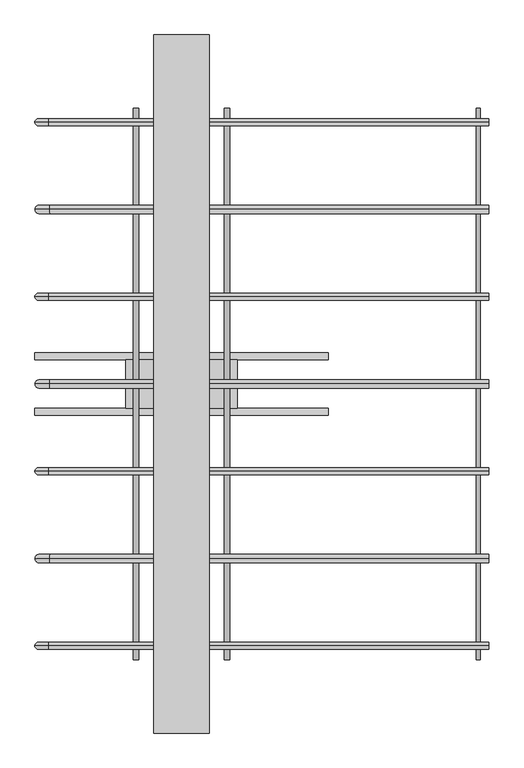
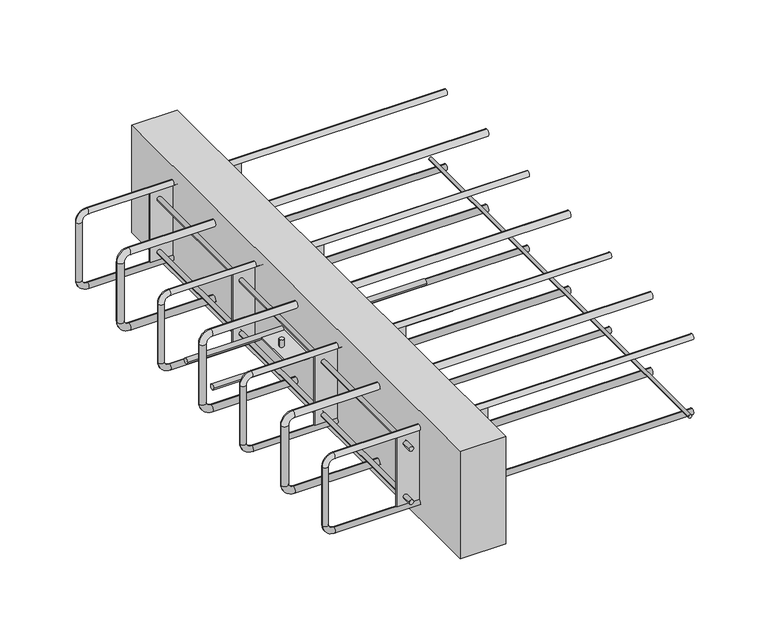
"""IFC4 building model written with IfcOpenShell, lengths in millimetres: fastener geometry, ACINOXplus_Typenreihe_Ux-Ox : UC+ S1."""

from ifc_helpers import new_model, si_unit, point, frame, frame_2d, origin, place, context, project, spatial, polyline, circle_curve, ellipse_curve, trimmed, segment, composite_curve, outline, extrude, source, transform, mapped, element, save
from ifc_brep_helpers import plane_surface, cylinder_surface, revolved_surface, advanced_brep


def fastener_22099402(model_context):
    return source(origin(), model_context, "Body", "SolidModel", [
        advanced_brep(
        [(440.0, 0.0, -23.5), (440.0, 0.0, -35.5), (-189.0, 0.0, -23.5), (-189.0, 0.0, -35.5), (-198.0, 0.0, -44.5), (-210.0, 0.0, -44.5), (-210.0, 0.0, -155.5), (-198.0, 0.0, -155.5), (-189.0, 0.0, -164.5), (-189.0, 0.0, -176.5), (440.0, 0.0, -176.5), (440.0, 0.0, -164.5)],
        [
            (0, 1, circle_curve(frame((440.0, 0.0, -29.5), z_axis=(1.0, 0.0, 0.0), x_axis=(0.0, 0.0, -1.0)), 6.0)),
            (1, 0, circle_curve(frame((440.0, 0.0, -29.5), z_axis=(1.0, 0.0, 0.0), x_axis=(0.0, 0.0, -1.0)), 6.0)),
            (0, 2),
            (2, 3, circle_curve(frame((-189.0, 0.0, -29.5), z_axis=(1.0, 0.0, 0.0), x_axis=(0.0, 0.0, -1.0)), 6.0)),
            (3, 1),
            (3, 2, circle_curve(frame((-189.0, 0.0, -29.5), z_axis=(1.0, 0.0, 0.0), x_axis=(0.0, 0.0, -1.0)), 6.0)),
            (4, 3, circle_curve(frame((-189.0, 0.0, -44.5), z_axis=(0.0, 1.0, 0.0), x_axis=(0.0, 0.0, 1.0)), 9.0)),
            (2, 5, circle_curve(frame((-189.0, 0.0, -44.5), z_axis=(0.0, -1.0, 0.0), x_axis=(0.0, 0.0, 1.0)), 21.0)),
            (5, 4, circle_curve(frame((-204.0, 0.0, -44.5), z_axis=(0.0, 0.0, 1.0), x_axis=(1.0, 0.0, 0.0)), 6.0)),
            (4, 5, circle_curve(frame((-204.0, 0.0, -44.5), z_axis=(0.0, 0.0, 1.0), x_axis=(1.0, 0.0, 0.0)), 6.0)),
            (5, 6),
            (6, 7, circle_curve(frame((-204.0, 0.0, -155.5), z_axis=(0.0, 0.0, 1.0), x_axis=(1.0, 0.0, 0.0)), 6.0)),
            (7, 4),
            (7, 6, circle_curve(frame((-204.0, 0.0, -155.5), z_axis=(0.0, 0.0, 1.0), x_axis=(1.0, 0.0, 0.0)), 6.0)),
            (8, 7, circle_curve(frame((-189.0, 0.0, -155.5), z_axis=(0.0, 1.0, 0.0), x_axis=(-1.0, 0.0, 0.0)), 9.0)),
            (6, 9, circle_curve(frame((-189.0, 0.0, -155.5), z_axis=(0.0, -1.0, 0.0), x_axis=(-1.0, 0.0, 0.0)), 21.0)),
            (9, 8, circle_curve(frame((-189.0, 0.0, -170.5), z_axis=(-1.0, 0.0, 0.0), x_axis=(0.0, 0.0, 1.0)), 6.0)),
            (8, 9, circle_curve(frame((-189.0, 0.0, -170.5), z_axis=(-1.0, 0.0, 0.0), x_axis=(0.0, 0.0, 1.0)), 6.0)),
            (10, 11, circle_curve(frame((440.0, 0.0, -170.5), z_axis=(1.0, 0.0, 0.0), x_axis=(0.0, 0.0, 1.0)), 6.0)),
            (11, 10, circle_curve(frame((440.0, 0.0, -170.5), z_axis=(1.0, 0.0, 0.0), x_axis=(0.0, 0.0, 1.0)), 6.0)),
            (9, 10),
            (11, 8),
        ],
        [
            plane_surface(frame((440.0, 0.0, -29.5), z_axis=(1.0, 0.0, 0.0), x_axis=(0.0, -1.0, 0.0))),
            cylinder_surface(frame((440.0, 0.0, -29.5), z_axis=(1.0, 0.0, 0.0), x_axis=(0.0, 0.0, -1.0)), 6.0),
            revolved_surface(trimmed(ellipse_curve(frame((-189.0, 0.0, -29.5), z_axis=(1.0, 0.0, 0.0), x_axis=(0.0, 0.0, -1.0)), 6.0, 6.0), [point((-189.0, 0.0, -23.5))], [point((-189.0, 0.0, -35.5))], True, "CARTESIAN"), (-189.0, 0.0, -44.5), (0.0, -1.0, 0.0)),
            revolved_surface(trimmed(ellipse_curve(frame((-189.0, 0.0, -29.5), z_axis=(1.0, 0.0, 0.0), x_axis=(0.0, 0.0, -1.0)), 6.0, 6.0), [point((-189.0, 0.0, -35.5))], [point((-189.0, 0.0, -23.5))], True, "CARTESIAN"), (-189.0, 0.0, -44.5), (0.0, -1.0, 0.0)),
            cylinder_surface(frame((-204.0, 0.0, -44.5), z_axis=(0.0, 0.0, 1.0), x_axis=(1.0, 0.0, 0.0)), 6.0),
            revolved_surface(trimmed(ellipse_curve(frame((-204.0, 0.0, -155.5), z_axis=(0.0, 0.0, 1.0), x_axis=(1.0, 0.0, 0.0)), 6.0, 6.0), [point((-210.0, 0.0, -155.5))], [point((-198.0, 0.0, -155.5))], True, "CARTESIAN"), (-189.0, 0.0, -155.5), (0.0, -1.0, 0.0)),
            revolved_surface(trimmed(ellipse_curve(frame((-204.0, 0.0, -155.5), z_axis=(0.0, 0.0, 1.0), x_axis=(1.0, 0.0, 0.0)), 6.0, 6.0), [point((-198.0, 0.0, -155.5))], [point((-210.0, 0.0, -155.5))], True, "CARTESIAN"), (-189.0, 0.0, -155.5), (0.0, -1.0, 0.0)),
            plane_surface(frame((440.0, 0.0, -170.5), z_axis=(1.0, 0.0, 0.0), x_axis=(0.0, -1.0, 0.0))),
            cylinder_surface(frame((-189.0, 0.0, -170.5), z_axis=(-1.0, 0.0, 0.0), x_axis=(0.0, 0.0, 1.0)), 6.0),
        ],
        [
            (0, [[1, 2]]),
            (1, [[-1, 3, 4, 5]]),
            (1, [[-2, -5, 6, -3]]),
            (2, [[7, -4, 8, 9]]),
            (3, [[-8, -6, -7, 10]]),
            (4, [[-9, 11, 12, 13]]),
            (4, [[-10, -13, 14, -11]]),
            (5, [[15, -12, 16, 17]]),
            (6, [[-16, -14, -15, 18]]),
            (7, [[19, 20]]),
            (8, [[-17, 21, -20, 22]]),
            (8, [[-18, -22, -19, -21]]),
        ],
    ),
        advanced_brep(
        [(440.0, 250.0, -23.5), (440.0, 250.0, -35.5), (-189.0, 250.0, -23.5), (-189.0, 250.0, -35.5), (-198.0, 250.0, -44.5), (-210.0, 250.0, -44.5), (-210.0, 250.0, -155.5), (-198.0, 250.0, -155.5), (-189.0, 250.0, -164.5), (-189.0, 250.0, -176.5), (440.0, 250.0, -176.5), (440.0, 250.0, -164.5)],
        [
            (0, 1, circle_curve(frame((440.0, 250.0, -29.5), z_axis=(1.0, 0.0, 0.0), x_axis=(0.0, 0.0, -1.0)), 6.0)),
            (1, 0, circle_curve(frame((440.0, 250.0, -29.5), z_axis=(1.0, 0.0, 0.0), x_axis=(0.0, 0.0, -1.0)), 6.0)),
            (0, 2),
            (2, 3, circle_curve(frame((-189.0, 250.0, -29.5), z_axis=(1.0, 0.0, 0.0), x_axis=(0.0, 0.0, -1.0)), 6.0)),
            (3, 1),
            (3, 2, circle_curve(frame((-189.0, 250.0, -29.5), z_axis=(1.0, 0.0, 0.0), x_axis=(0.0, 0.0, -1.0)), 6.0)),
            (4, 3, circle_curve(frame((-189.0, 250.0, -44.5), z_axis=(0.0, 1.0, 0.0), x_axis=(0.0, 0.0, 1.0)), 9.0)),
            (2, 5, circle_curve(frame((-189.0, 250.0, -44.5), z_axis=(0.0, -1.0, 0.0), x_axis=(0.0, 0.0, 1.0)), 21.0)),
            (5, 4, circle_curve(frame((-204.0, 250.0, -44.5), z_axis=(0.0, 0.0, 1.0), x_axis=(1.0, 0.0, 0.0)), 6.0)),
            (4, 5, circle_curve(frame((-204.0, 250.0, -44.5), z_axis=(0.0, 0.0, 1.0), x_axis=(1.0, 0.0, 0.0)), 6.0)),
            (5, 6),
            (6, 7, circle_curve(frame((-204.0, 250.0, -155.5), z_axis=(0.0, 0.0, 1.0), x_axis=(1.0, 0.0, 0.0)), 6.0)),
            (7, 4),
            (7, 6, circle_curve(frame((-204.0, 250.0, -155.5), z_axis=(0.0, 0.0, 1.0), x_axis=(1.0, 0.0, 0.0)), 6.0)),
            (8, 7, circle_curve(frame((-189.0, 250.0, -155.5), z_axis=(0.0, 1.0, 0.0), x_axis=(-1.0, 0.0, 0.0)), 9.0)),
            (6, 9, circle_curve(frame((-189.0, 250.0, -155.5), z_axis=(0.0, -1.0, 0.0), x_axis=(-1.0, 0.0, 0.0)), 21.0)),
            (9, 8, circle_curve(frame((-189.0, 250.0, -170.5), z_axis=(-1.0, 0.0, 0.0), x_axis=(0.0, 0.0, 1.0)), 6.0)),
            (8, 9, circle_curve(frame((-189.0, 250.0, -170.5), z_axis=(-1.0, 0.0, 0.0), x_axis=(0.0, 0.0, 1.0)), 6.0)),
            (10, 11, circle_curve(frame((440.0, 250.0, -170.5), z_axis=(1.0, 0.0, 0.0), x_axis=(0.0, 0.0, 1.0)), 6.0)),
            (11, 10, circle_curve(frame((440.0, 250.0, -170.5), z_axis=(1.0, 0.0, 0.0), x_axis=(0.0, 0.0, 1.0)), 6.0)),
            (9, 10),
            (11, 8),
        ],
        [
            plane_surface(frame((440.0, 250.0, -29.5), z_axis=(1.0, 0.0, 0.0), x_axis=(0.0, -1.0, 0.0))),
            cylinder_surface(frame((440.0, 250.0, -29.5), z_axis=(1.0, 0.0, 0.0), x_axis=(0.0, 0.0, -1.0)), 6.0),
            revolved_surface(trimmed(ellipse_curve(frame((-189.0, 250.0, -29.5), z_axis=(1.0, 0.0, 0.0), x_axis=(0.0, 0.0, -1.0)), 6.0, 6.0), [point((-189.0, 250.0, -23.5))], [point((-189.0, 250.0, -35.5))], True, "CARTESIAN"), (-189.0, 250.0, -44.5), (0.0, -1.0, 0.0)),
            revolved_surface(trimmed(ellipse_curve(frame((-189.0, 250.0, -29.5), z_axis=(1.0, 0.0, 0.0), x_axis=(0.0, 0.0, -1.0)), 6.0, 6.0), [point((-189.0, 250.0, -35.5))], [point((-189.0, 250.0, -23.5))], True, "CARTESIAN"), (-189.0, 250.0, -44.5), (0.0, -1.0, 0.0)),
            cylinder_surface(frame((-204.0, 250.0, -44.5), z_axis=(0.0, 0.0, 1.0), x_axis=(1.0, 0.0, 0.0)), 6.0),
            revolved_surface(trimmed(ellipse_curve(frame((-204.0, 250.0, -155.5), z_axis=(0.0, 0.0, 1.0), x_axis=(1.0, 0.0, 0.0)), 6.0, 6.0), [point((-210.0, 250.0, -155.5))], [point((-198.0, 250.0, -155.5))], True, "CARTESIAN"), (-189.0, 250.0, -155.5), (0.0, -1.0, 0.0)),
            revolved_surface(trimmed(ellipse_curve(frame((-204.0, 250.0, -155.5), z_axis=(0.0, 0.0, 1.0), x_axis=(1.0, 0.0, 0.0)), 6.0, 6.0), [point((-198.0, 250.0, -155.5))], [point((-210.0, 250.0, -155.5))], True, "CARTESIAN"), (-189.0, 250.0, -155.5), (0.0, -1.0, 0.0)),
            plane_surface(frame((440.0, 250.0, -170.5), z_axis=(1.0, 0.0, 0.0), x_axis=(0.0, -1.0, 0.0))),
            cylinder_surface(frame((-189.0, 250.0, -170.5), z_axis=(-1.0, 0.0, 0.0), x_axis=(0.0, 0.0, 1.0)), 6.0),
        ],
        [
            (0, [[1, 2]]),
            (1, [[-1, 3, 4, 5]]),
            (1, [[-2, -5, 6, -3]]),
            (2, [[7, -4, 8, 9]]),
            (3, [[-8, -6, -7, 10]]),
            (4, [[-9, 11, 12, 13]]),
            (4, [[-10, -13, 14, -11]]),
            (5, [[15, -12, 16, 17]]),
            (6, [[-16, -14, -15, 18]]),
            (7, [[19, 20]]),
            (8, [[-17, 21, -20, 22]]),
            (8, [[-18, -22, -19, -21]]),
        ],
    ),
        advanced_brep(
        [(440.0, -250.0, -23.5), (440.0, -250.0, -35.5), (-189.0, -250.0, -23.5), (-189.0, -250.0, -35.5), (-198.0, -250.0, -44.5), (-210.0, -250.0, -44.5), (-210.0, -250.0, -155.5), (-198.0, -250.0, -155.5), (-189.0, -250.0, -164.5), (-189.0, -250.0, -176.5), (440.0, -250.0, -176.5), (440.0, -250.0, -164.5)],
        [
            (0, 1, circle_curve(frame((440.0, -250.0, -29.5), z_axis=(1.0, 0.0, 0.0), x_axis=(0.0, 0.0, -1.0)), 6.0)),
            (1, 0, circle_curve(frame((440.0, -250.0, -29.5), z_axis=(1.0, 0.0, 0.0), x_axis=(0.0, 0.0, -1.0)), 6.0)),
            (0, 2),
            (2, 3, circle_curve(frame((-189.0, -250.0, -29.5), z_axis=(1.0, 0.0, 0.0), x_axis=(0.0, 0.0, -1.0)), 6.0)),
            (3, 1),
            (3, 2, circle_curve(frame((-189.0, -250.0, -29.5), z_axis=(1.0, 0.0, 0.0), x_axis=(0.0, 0.0, -1.0)), 6.0)),
            (4, 3, circle_curve(frame((-189.0, -250.0, -44.5), z_axis=(0.0, 1.0, 0.0), x_axis=(0.0, 0.0, 1.0)), 9.0)),
            (2, 5, circle_curve(frame((-189.0, -250.0, -44.5), z_axis=(0.0, -1.0, 0.0), x_axis=(0.0, 0.0, 1.0)), 21.0)),
            (5, 4, circle_curve(frame((-204.0, -250.0, -44.5), z_axis=(0.0, 0.0, 1.0), x_axis=(1.0, 0.0, 0.0)), 6.0)),
            (4, 5, circle_curve(frame((-204.0, -250.0, -44.5), z_axis=(0.0, 0.0, 1.0), x_axis=(1.0, 0.0, 0.0)), 6.0)),
            (5, 6),
            (6, 7, circle_curve(frame((-204.0, -250.0, -155.5), z_axis=(0.0, 0.0, 1.0), x_axis=(1.0, 0.0, 0.0)), 6.0)),
            (7, 4),
            (7, 6, circle_curve(frame((-204.0, -250.0, -155.5), z_axis=(0.0, 0.0, 1.0), x_axis=(1.0, 0.0, 0.0)), 6.0)),
            (8, 7, circle_curve(frame((-189.0, -250.0, -155.5), z_axis=(0.0, 1.0, 0.0), x_axis=(-1.0, 0.0, 0.0)), 9.0)),
            (6, 9, circle_curve(frame((-189.0, -250.0, -155.5), z_axis=(0.0, -1.0, 0.0), x_axis=(-1.0, 0.0, 0.0)), 21.0)),
            (9, 8, circle_curve(frame((-189.0, -250.0, -170.5), z_axis=(-1.0, 0.0, 0.0), x_axis=(0.0, 0.0, 1.0)), 6.0)),
            (8, 9, circle_curve(frame((-189.0, -250.0, -170.5), z_axis=(-1.0, 0.0, 0.0), x_axis=(0.0, 0.0, 1.0)), 6.0)),
            (10, 11, circle_curve(frame((440.0, -250.0, -170.5), z_axis=(1.0, 0.0, 0.0), x_axis=(0.0, 0.0, 1.0)), 6.0)),
            (11, 10, circle_curve(frame((440.0, -250.0, -170.5), z_axis=(1.0, 0.0, 0.0), x_axis=(0.0, 0.0, 1.0)), 6.0)),
            (9, 10),
            (11, 8),
        ],
        [
            plane_surface(frame((440.0, -250.0, -29.5), z_axis=(1.0, 0.0, 0.0), x_axis=(0.0, -1.0, 0.0))),
            cylinder_surface(frame((440.0, -250.0, -29.5), z_axis=(1.0, 0.0, 0.0), x_axis=(0.0, 0.0, -1.0)), 6.0),
            revolved_surface(trimmed(ellipse_curve(frame((-189.0, -250.0, -29.5), z_axis=(1.0, 0.0, 0.0), x_axis=(0.0, 0.0, -1.0)), 6.0, 6.0), [point((-189.0, -250.0, -23.5))], [point((-189.0, -250.0, -35.5))], True, "CARTESIAN"), (-189.0, -250.0, -44.5), (0.0, -1.0, 0.0)),
            revolved_surface(trimmed(ellipse_curve(frame((-189.0, -250.0, -29.5), z_axis=(1.0, 0.0, 0.0), x_axis=(0.0, 0.0, -1.0)), 6.0, 6.0), [point((-189.0, -250.0, -35.5))], [point((-189.0, -250.0, -23.5))], True, "CARTESIAN"), (-189.0, -250.0, -44.5), (0.0, -1.0, 0.0)),
            cylinder_surface(frame((-204.0, -250.0, -44.5), z_axis=(0.0, 0.0, 1.0), x_axis=(1.0, 0.0, 0.0)), 6.0),
            revolved_surface(trimmed(ellipse_curve(frame((-204.0, -250.0, -155.5), z_axis=(0.0, 0.0, 1.0), x_axis=(1.0, 0.0, 0.0)), 6.0, 6.0), [point((-210.0, -250.0, -155.5))], [point((-198.0, -250.0, -155.5))], True, "CARTESIAN"), (-189.0, -250.0, -155.5), (0.0, -1.0, 0.0)),
            revolved_surface(trimmed(ellipse_curve(frame((-204.0, -250.0, -155.5), z_axis=(0.0, 0.0, 1.0), x_axis=(1.0, 0.0, 0.0)), 6.0, 6.0), [point((-198.0, -250.0, -155.5))], [point((-210.0, -250.0, -155.5))], True, "CARTESIAN"), (-189.0, -250.0, -155.5), (0.0, -1.0, 0.0)),
            plane_surface(frame((440.0, -250.0, -170.5), z_axis=(1.0, 0.0, 0.0), x_axis=(0.0, -1.0, 0.0))),
            cylinder_surface(frame((-189.0, -250.0, -170.5), z_axis=(-1.0, 0.0, 0.0), x_axis=(0.0, 0.0, 1.0)), 6.0),
        ],
        [
            (0, [[1, 2]]),
            (1, [[-1, 3, 4, 5]]),
            (1, [[-2, -5, 6, -3]]),
            (2, [[7, -4, 8, 9]]),
            (3, [[-8, -6, -7, 10]]),
            (4, [[-9, 11, 12, 13]]),
            (4, [[-10, -13, 14, -11]]),
            (5, [[15, -12, 16, 17]]),
            (6, [[-16, -14, -15, 18]]),
            (7, [[19, 20]]),
            (8, [[-17, 21, -20, 22]]),
            (8, [[-18, -22, -19, -21]]),
        ],
    ),
        extrude(outline(composite_curve([segment(trimmed(circle_curve(frame_2d((-161.5, 425.0)), 3.0), [point((-161.5, 428.0))], [point((-161.5, 422.0))], False, "CARTESIAN"), True, "CONTINUOUS"), segment(trimmed(circle_curve(frame_2d((-161.5, 425.0)), 3.0), [point((-161.5, 422.0))], [point((-161.5, 428.0))], False, "CARTESIAN"), True, "CONTINUOUS")], self_intersect=False)), frame((0.0, -395.0, 0.0), z_axis=(0.0, 1.0, 0.0), x_axis=(0.0, 0.0, 1.0)), (0.0, 0.0, 1.0), 790.0),
        extrude(outline(polyline([(40.0, 500.0), (40.0, -500.0), (-40.0, -500.0), (-40.0, 500.0), (40.0, 500.0)])), frame((0.0, 0.0, -200.0), z_axis=(0.0, 0.0, 1.0), x_axis=(1.0, 0.0, 0.0)), (0.0, 0.0, 1.0), 200.0),
        extrude(outline(composite_curve([segment(trimmed(circle_curve(frame_2d((-40.0, -100.0)), 5.0), [point((-45.0, -100.0))], [point((-35.0, -100.0))], False, "CARTESIAN"), True, "CONTINUOUS"), segment(trimmed(circle_curve(frame_2d((-40.0, -100.0)), 5.0), [point((-35.0, -100.0))], [point((-45.0, -100.0))], False, "CARTESIAN"), True, "CONTINUOUS")], self_intersect=False)), frame((-210.0, 0.0, 0.0), z_axis=(1.0, 0.0, 0.0), x_axis=(0.0, 1.0, 0.0)), (0.0, 0.0, 1.0), 420.0),
        extrude(outline(composite_curve([segment(trimmed(circle_curve(frame_2d((40.0, -100.0)), 5.0), [point((35.0, -100.0))], [point((45.0, -100.0))], False, "CARTESIAN"), True, "CONTINUOUS"), segment(trimmed(circle_curve(frame_2d((40.0, -100.0)), 5.0), [point((45.0, -100.0))], [point((35.0, -100.0))], False, "CARTESIAN"), True, "CONTINUOUS")], self_intersect=False)), frame((-210.0, 0.0, 0.0), z_axis=(1.0, 0.0, 0.0), x_axis=(0.0, 1.0, 0.0)), (0.0, 0.0, 1.0), 420.0),
        extrude(outline(composite_curve([segment(trimmed(circle_curve(frame_2d((-65.0, 0.0)), 4.0), [point((-61.0, 0.0))], [point((-69.0, 0.0))], False, "CARTESIAN"), True, "CONTINUOUS"), segment(trimmed(circle_curve(frame_2d((-65.0, 0.0)), 4.0), [point((-69.0, 0.0))], [point((-61.0, 0.0))], False, "CARTESIAN"), True, "CONTINUOUS")], self_intersect=False)), frame((0.0, 0.0, -98.5), z_axis=(0.0, 0.0, 1.0), x_axis=(1.0, 0.0, 0.0)), (0.0, 0.0, 1.0), 13.5),
        extrude(outline(composite_curve([segment(trimmed(circle_curve(frame_2d((65.0, 0.0)), 4.0), [point((69.0, 0.0))], [point((61.0, 0.0))], False, "CARTESIAN"), True, "CONTINUOUS"), segment(trimmed(circle_curve(frame_2d((65.0, 0.0)), 4.0), [point((61.0, 0.0))], [point((69.0, 0.0))], False, "CARTESIAN"), True, "CONTINUOUS")], self_intersect=False)), frame((0.0, 0.0, -98.5), z_axis=(0.0, 0.0, 1.0), x_axis=(1.0, 0.0, 0.0)), (0.0, 0.0, 1.0), 13.5),
        extrude(outline(composite_curve([segment(trimmed(circle_curve(frame_2d((-65.0, 0.0)), 4.0), [point((-69.0, 0.0))], [point((-61.0, 0.0))], False, "CARTESIAN"), True, "CONTINUOUS"), segment(trimmed(circle_curve(frame_2d((-65.0, 0.0)), 4.0), [point((-61.0, 0.0))], [point((-69.0, 0.0))], False, "CARTESIAN"), True, "CONTINUOUS")], self_intersect=False)), frame((0.0, 0.0, -115.0), z_axis=(0.0, 0.0, 1.0), x_axis=(1.0, 0.0, 0.0)), (0.0, 0.0, 1.0), 13.5),
        extrude(outline(composite_curve([segment(trimmed(circle_curve(frame_2d((65.0, 0.0)), 4.0), [point((61.0, 0.0))], [point((69.0, 0.0))], False, "CARTESIAN"), True, "CONTINUOUS"), segment(trimmed(circle_curve(frame_2d((65.0, 0.0)), 4.0), [point((69.0, 0.0))], [point((61.0, 0.0))], False, "CARTESIAN"), True, "CONTINUOUS")], self_intersect=False)), frame((0.0, 0.0, -115.0), z_axis=(0.0, 0.0, 1.0), x_axis=(1.0, 0.0, 0.0)), (0.0, 0.0, 1.0), 13.5),
        extrude(outline(polyline([(80.0, 35.0), (80.0, -35.0), (-80.0, -35.0), (-80.0, 35.0), (80.0, 35.0)])), frame((0.0, 0.0, -101.5), z_axis=(0.0, 0.0, 1.0), x_axis=(1.0, 0.0, 0.0)), (0.0, 0.0, 1.0), 3.0),
        extrude(outline(polyline([(80.0, -123.5), (80.0, -126.5), (-80.0, -126.5), (-80.0, -123.5), (80.0, -123.5)])), frame((0.0, 0.0, -164.5), z_axis=(0.0, 0.0, 1.0), x_axis=(1.0, 0.0, 0.0)), (0.0, 0.0, 1.0), 129.0),
        extrude(outline(polyline([(80.0, 126.5), (80.0, 123.5), (-80.0, 123.5), (-80.0, 126.5), (80.0, 126.5)])), frame((0.0, 0.0, -164.5), z_axis=(0.0, 0.0, 1.0), x_axis=(1.0, 0.0, 0.0)), (0.0, 0.0, 1.0), 129.0),
        extrude(outline(polyline([(80.0, -373.5), (80.0, -376.5), (-80.0, -376.5), (-80.0, -373.5), (80.0, -373.5)])), frame((0.0, 0.0, -164.5), z_axis=(0.0, 0.0, 1.0), x_axis=(1.0, 0.0, 0.0)), (0.0, 0.0, 1.0), 129.0),
        extrude(outline(polyline([(80.0, 376.5), (80.0, 373.5), (-80.0, 373.5), (-80.0, 376.5), (80.0, 376.5)])), frame((0.0, 0.0, -164.5), z_axis=(0.0, 0.0, 1.0), x_axis=(1.0, 0.0, 0.0)), (0.0, 0.0, 1.0), 129.0),
        extrude(outline(composite_curve([segment(trimmed(circle_curve(frame_2d((-149.5, -65.0)), 4.0), [point((-149.5, -61.0))], [point((-149.5, -69.0))], False, "CARTESIAN"), True, "CONTINUOUS"), segment(trimmed(circle_curve(frame_2d((-149.5, -65.0)), 4.0), [point((-149.5, -69.0))], [point((-149.5, -61.0))], False, "CARTESIAN"), True, "CONTINUOUS")], self_intersect=False)), frame((0.0, -395.0, 0.0), z_axis=(0.0, 1.0, 0.0), x_axis=(0.0, 0.0, 1.0)), (0.0, 0.0, 1.0), 18.5),
        extrude(outline(composite_curve([segment(trimmed(circle_curve(frame_2d((-149.5, -65.0)), 4.0), [point((-149.5, -69.0))], [point((-149.5, -61.0))], False, "CARTESIAN"), True, "CONTINUOUS"), segment(trimmed(circle_curve(frame_2d((-149.5, -65.0)), 4.0), [point((-149.5, -61.0))], [point((-149.5, -69.0))], False, "CARTESIAN"), True, "CONTINUOUS")], self_intersect=False)), frame((0.0, -373.5, 0.0), z_axis=(0.0, 1.0, 0.0), x_axis=(0.0, 0.0, 1.0)), (0.0, 0.0, 1.0), 497.0),
        extrude(outline(composite_curve([segment(trimmed(circle_curve(frame_2d((-149.5, -65.0)), 4.0), [point((-149.5, -69.0))], [point((-149.5, -61.0))], False, "CARTESIAN"), True, "CONTINUOUS"), segment(trimmed(circle_curve(frame_2d((-149.5, -65.0)), 4.0), [point((-149.5, -61.0))], [point((-149.5, -69.0))], False, "CARTESIAN"), True, "CONTINUOUS")], self_intersect=False)), frame((0.0, 376.5, 0.0), z_axis=(0.0, 1.0, 0.0), x_axis=(0.0, 0.0, 1.0)), (0.0, 0.0, 1.0), 18.5),
        extrude(outline(composite_curve([segment(trimmed(circle_curve(frame_2d((-149.5, -65.0)), 4.0), [point((-149.5, -69.0))], [point((-149.5, -61.0))], False, "CARTESIAN"), True, "CONTINUOUS"), segment(trimmed(circle_curve(frame_2d((-149.5, -65.0)), 4.0), [point((-149.5, -61.0))], [point((-149.5, -69.0))], False, "CARTESIAN"), True, "CONTINUOUS")], self_intersect=False)), frame((0.0, 126.5, 0.0), z_axis=(0.0, 1.0, 0.0), x_axis=(0.0, 0.0, 1.0)), (0.0, 0.0, 1.0), 247.0),
        extrude(outline(composite_curve([segment(trimmed(circle_curve(frame_2d((-149.5, 65.0)), 4.0), [point((-149.5, 69.0))], [point((-149.5, 61.0))], False, "CARTESIAN"), True, "CONTINUOUS"), segment(trimmed(circle_curve(frame_2d((-149.5, 65.0)), 4.0), [point((-149.5, 61.0))], [point((-149.5, 69.0))], False, "CARTESIAN"), True, "CONTINUOUS")], self_intersect=False)), frame((0.0, -395.0, 0.0), z_axis=(0.0, 1.0, 0.0), x_axis=(0.0, 0.0, 1.0)), (0.0, 0.0, 1.0), 18.5),
        extrude(outline(composite_curve([segment(trimmed(circle_curve(frame_2d((-149.5, 65.0)), 4.0), [point((-149.5, 61.0))], [point((-149.5, 69.0))], False, "CARTESIAN"), True, "CONTINUOUS"), segment(trimmed(circle_curve(frame_2d((-149.5, 65.0)), 4.0), [point((-149.5, 69.0))], [point((-149.5, 61.0))], False, "CARTESIAN"), True, "CONTINUOUS")], self_intersect=False)), frame((0.0, -373.5, 0.0), z_axis=(0.0, 1.0, 0.0), x_axis=(0.0, 0.0, 1.0)), (0.0, 0.0, 1.0), 497.0),
        extrude(outline(composite_curve([segment(trimmed(circle_curve(frame_2d((-149.5, 65.0)), 4.0), [point((-149.5, 61.0))], [point((-149.5, 69.0))], False, "CARTESIAN"), True, "CONTINUOUS"), segment(trimmed(circle_curve(frame_2d((-149.5, 65.0)), 4.0), [point((-149.5, 69.0))], [point((-149.5, 61.0))], False, "CARTESIAN"), True, "CONTINUOUS")], self_intersect=False)), frame((0.0, 376.5, 0.0), z_axis=(0.0, 1.0, 0.0), x_axis=(0.0, 0.0, 1.0)), (0.0, 0.0, 1.0), 18.5),
        extrude(outline(composite_curve([segment(trimmed(circle_curve(frame_2d((-149.5, 65.0)), 4.0), [point((-149.5, 61.0))], [point((-149.5, 69.0))], False, "CARTESIAN"), True, "CONTINUOUS"), segment(trimmed(circle_curve(frame_2d((-149.5, 65.0)), 4.0), [point((-149.5, 69.0))], [point((-149.5, 61.0))], False, "CARTESIAN"), True, "CONTINUOUS")], self_intersect=False)), frame((0.0, 126.5, 0.0), z_axis=(0.0, 1.0, 0.0), x_axis=(0.0, 0.0, 1.0)), (0.0, 0.0, 1.0), 247.0),
        extrude(outline(composite_curve([segment(trimmed(circle_curve(frame_2d((-50.5, -65.0)), 4.0), [point((-50.5, -69.0))], [point((-50.5, -61.0))], False, "CARTESIAN"), True, "CONTINUOUS"), segment(trimmed(circle_curve(frame_2d((-50.5, -65.0)), 4.0), [point((-50.5, -61.0))], [point((-50.5, -69.0))], False, "CARTESIAN"), True, "CONTINUOUS")], self_intersect=False)), frame((0.0, 376.5, 0.0), z_axis=(0.0, 1.0, 0.0), x_axis=(0.0, 0.0, 1.0)), (0.0, 0.0, 1.0), 18.5),
        extrude(outline(composite_curve([segment(trimmed(circle_curve(frame_2d((-50.5, -65.0)), 4.0), [point((-50.5, -61.0))], [point((-50.5, -69.0))], False, "CARTESIAN"), True, "CONTINUOUS"), segment(trimmed(circle_curve(frame_2d((-50.5, -65.0)), 4.0), [point((-50.5, -69.0))], [point((-50.5, -61.0))], False, "CARTESIAN"), True, "CONTINUOUS")], self_intersect=False)), frame((0.0, -395.0, 0.0), z_axis=(0.0, 1.0, 0.0), x_axis=(0.0, 0.0, 1.0)), (0.0, 0.0, 1.0), 18.5),
        extrude(outline(composite_curve([segment(trimmed(circle_curve(frame_2d((-50.5, -65.0)), 4.0), [point((-50.5, -69.0))], [point((-50.5, -61.0))], False, "CARTESIAN"), True, "CONTINUOUS"), segment(trimmed(circle_curve(frame_2d((-50.5, -65.0)), 4.0), [point((-50.5, -61.0))], [point((-50.5, -69.0))], False, "CARTESIAN"), True, "CONTINUOUS")], self_intersect=False)), frame((0.0, -373.5, 0.0), z_axis=(0.0, 1.0, 0.0), x_axis=(0.0, 0.0, 1.0)), (0.0, 0.0, 1.0), 497.0),
        extrude(outline(composite_curve([segment(trimmed(circle_curve(frame_2d((-50.5, -65.0)), 4.0), [point((-50.5, -69.0))], [point((-50.5, -61.0))], False, "CARTESIAN"), True, "CONTINUOUS"), segment(trimmed(circle_curve(frame_2d((-50.5, -65.0)), 4.0), [point((-50.5, -61.0))], [point((-50.5, -69.0))], False, "CARTESIAN"), True, "CONTINUOUS")], self_intersect=False)), frame((0.0, 126.5, 0.0), z_axis=(0.0, 1.0, 0.0), x_axis=(0.0, 0.0, 1.0)), (0.0, 0.0, 1.0), 247.0),
        extrude(outline(composite_curve([segment(trimmed(circle_curve(frame_2d((-50.5, 65.0)), 4.0), [point((-50.5, 61.0))], [point((-50.5, 69.0))], False, "CARTESIAN"), True, "CONTINUOUS"), segment(trimmed(circle_curve(frame_2d((-50.5, 65.0)), 4.0), [point((-50.5, 69.0))], [point((-50.5, 61.0))], False, "CARTESIAN"), True, "CONTINUOUS")], self_intersect=False)), frame((0.0, 376.5, 0.0), z_axis=(0.0, 1.0, 0.0), x_axis=(0.0, 0.0, 1.0)), (0.0, 0.0, 1.0), 18.5),
        extrude(outline(composite_curve([segment(trimmed(circle_curve(frame_2d((-50.5, 65.0)), 4.0), [point((-50.5, 69.0))], [point((-50.5, 61.0))], False, "CARTESIAN"), True, "CONTINUOUS"), segment(trimmed(circle_curve(frame_2d((-50.5, 65.0)), 4.0), [point((-50.5, 61.0))], [point((-50.5, 69.0))], False, "CARTESIAN"), True, "CONTINUOUS")], self_intersect=False)), frame((0.0, -395.0, 0.0), z_axis=(0.0, 1.0, 0.0), x_axis=(0.0, 0.0, 1.0)), (0.0, 0.0, 1.0), 18.5),
        extrude(outline(composite_curve([segment(trimmed(circle_curve(frame_2d((-50.5, 65.0)), 4.0), [point((-50.5, 61.0))], [point((-50.5, 69.0))], False, "CARTESIAN"), True, "CONTINUOUS"), segment(trimmed(circle_curve(frame_2d((-50.5, 65.0)), 4.0), [point((-50.5, 69.0))], [point((-50.5, 61.0))], False, "CARTESIAN"), True, "CONTINUOUS")], self_intersect=False)), frame((0.0, -373.5, 0.0), z_axis=(0.0, 1.0, 0.0), x_axis=(0.0, 0.0, 1.0)), (0.0, 0.0, 1.0), 497.0),
        extrude(outline(composite_curve([segment(trimmed(circle_curve(frame_2d((-50.5, 65.0)), 4.0), [point((-50.5, 61.0))], [point((-50.5, 69.0))], False, "CARTESIAN"), True, "CONTINUOUS"), segment(trimmed(circle_curve(frame_2d((-50.5, 65.0)), 4.0), [point((-50.5, 69.0))], [point((-50.5, 61.0))], False, "CARTESIAN"), True, "CONTINUOUS")], self_intersect=False)), frame((0.0, 126.5, 0.0), z_axis=(0.0, 1.0, 0.0), x_axis=(0.0, 0.0, 1.0)), (0.0, 0.0, 1.0), 247.0),
        advanced_brep(
        [(440.0, 125.0, -25.5), (440.0, 125.0, -35.5), (-190.0, 125.0, -25.5), (-190.0, 125.0, -35.5), (-200.0, 125.0, -45.5), (-210.0, 125.0, -45.5), (-210.0, 125.0, -154.5), (-200.0, 125.0, -154.5), (-190.0, 125.0, -164.5), (-190.0, 125.0, -174.5), (440.0, 125.0, -174.5), (440.0, 125.0, -164.5)],
        [
            (0, 1, circle_curve(frame((440.0, 125.0, -30.5), z_axis=(1.0, 0.0, 0.0), x_axis=(0.0, 0.0, -1.0)), 5.0)),
            (1, 0, circle_curve(frame((440.0, 125.0, -30.5), z_axis=(1.0, 0.0, 0.0), x_axis=(0.0, 0.0, -1.0)), 5.0)),
            (0, 2),
            (2, 3, circle_curve(frame((-190.0, 125.0, -30.5), z_axis=(1.0, 0.0, 0.0), x_axis=(0.0, 0.0, -1.0)), 5.0)),
            (3, 1),
            (3, 2, circle_curve(frame((-190.0, 125.0, -30.5), z_axis=(1.0, 0.0, 0.0), x_axis=(0.0, 0.0, -1.0)), 5.0)),
            (4, 3, circle_curve(frame((-190.0, 125.0, -45.5), z_axis=(0.0, 1.0, 0.0), x_axis=(0.0, 0.0, 1.0)), 10.0)),
            (2, 5, circle_curve(frame((-190.0, 125.0, -45.5), z_axis=(0.0, -1.0, 0.0), x_axis=(0.0, 0.0, 1.0)), 20.0)),
            (5, 4, circle_curve(frame((-205.0, 125.0, -45.5), z_axis=(0.0, 0.0, 1.0), x_axis=(1.0, 0.0, 0.0)), 5.0)),
            (4, 5, circle_curve(frame((-205.0, 125.0, -45.5), z_axis=(0.0, 0.0, 1.0), x_axis=(1.0, 0.0, 0.0)), 5.0)),
            (5, 6),
            (6, 7, circle_curve(frame((-205.0, 125.0, -154.5), z_axis=(0.0, 0.0, 1.0), x_axis=(1.0, 0.0, 0.0)), 5.0)),
            (7, 4),
            (7, 6, circle_curve(frame((-205.0, 125.0, -154.5), z_axis=(0.0, 0.0, 1.0), x_axis=(1.0, 0.0, 0.0)), 5.0)),
            (8, 7, circle_curve(frame((-190.0, 125.0, -154.5), z_axis=(0.0, 1.0, 0.0), x_axis=(-1.0, 0.0, 0.0)), 10.0)),
            (6, 9, circle_curve(frame((-190.0, 125.0, -154.5), z_axis=(0.0, -1.0, 0.0), x_axis=(-1.0, 0.0, 0.0)), 20.0)),
            (9, 8, circle_curve(frame((-190.0, 125.0, -169.5), z_axis=(-1.0, 0.0, 0.0), x_axis=(0.0, 0.0, 1.0)), 5.0)),
            (8, 9, circle_curve(frame((-190.0, 125.0, -169.5), z_axis=(-1.0, 0.0, 0.0), x_axis=(0.0, 0.0, 1.0)), 5.0)),
            (10, 11, circle_curve(frame((440.0, 125.0, -169.5), z_axis=(1.0, 0.0, 0.0), x_axis=(0.0, 0.0, 1.0)), 5.0)),
            (11, 10, circle_curve(frame((440.0, 125.0, -169.5), z_axis=(1.0, 0.0, 0.0), x_axis=(0.0, 0.0, 1.0)), 5.0)),
            (9, 10),
            (11, 8),
        ],
        [
            plane_surface(frame((440.0, 125.0, -30.5), z_axis=(1.0, 0.0, 0.0), x_axis=(0.0, -1.0, 0.0))),
            cylinder_surface(frame((440.0, 125.0, -30.5), z_axis=(1.0, 0.0, 0.0), x_axis=(0.0, 0.0, -1.0)), 5.0),
            revolved_surface(trimmed(ellipse_curve(frame((-190.0, 125.0, -30.5), z_axis=(1.0, 0.0, 0.0), x_axis=(0.0, 0.0, -1.0)), 5.0, 5.0), [point((-190.0, 125.0, -25.5))], [point((-190.0, 125.0, -35.5))], True, "CARTESIAN"), (-190.0, 125.0, -45.5), (0.0, -1.0, 0.0)),
            revolved_surface(trimmed(ellipse_curve(frame((-190.0, 125.0, -30.5), z_axis=(1.0, 0.0, 0.0), x_axis=(0.0, 0.0, -1.0)), 5.0, 5.0), [point((-190.0, 125.0, -35.5))], [point((-190.0, 125.0, -25.5))], True, "CARTESIAN"), (-190.0, 125.0, -45.5), (0.0, -1.0, 0.0)),
            cylinder_surface(frame((-205.0, 125.0, -45.5), z_axis=(0.0, 0.0, 1.0), x_axis=(1.0, 0.0, 0.0)), 5.0),
            revolved_surface(trimmed(ellipse_curve(frame((-205.0, 125.0, -154.5), z_axis=(0.0, 0.0, 1.0), x_axis=(1.0, 0.0, 0.0)), 5.0, 5.0), [point((-210.0, 125.0, -154.5))], [point((-200.0, 125.0, -154.5))], True, "CARTESIAN"), (-190.0, 125.0, -154.5), (0.0, -1.0, 0.0)),
            revolved_surface(trimmed(ellipse_curve(frame((-205.0, 125.0, -154.5), z_axis=(0.0, 0.0, 1.0), x_axis=(1.0, 0.0, 0.0)), 5.0, 5.0), [point((-200.0, 125.0, -154.5))], [point((-210.0, 125.0, -154.5))], True, "CARTESIAN"), (-190.0, 125.0, -154.5), (0.0, -1.0, 0.0)),
            plane_surface(frame((440.0, 125.0, -169.5), z_axis=(1.0, 0.0, 0.0), x_axis=(0.0, -1.0, 0.0))),
            cylinder_surface(frame((-190.0, 125.0, -169.5), z_axis=(-1.0, 0.0, 0.0), x_axis=(0.0, 0.0, 1.0)), 5.0),
        ],
        [
            (0, [[1, 2]]),
            (1, [[-1, 3, 4, 5]]),
            (1, [[-2, -5, 6, -3]]),
            (2, [[7, -4, 8, 9]]),
            (3, [[-8, -6, -7, 10]]),
            (4, [[-9, 11, 12, 13]]),
            (4, [[-10, -13, 14, -11]]),
            (5, [[15, -12, 16, 17]]),
            (6, [[-16, -14, -15, 18]]),
            (7, [[19, 20]]),
            (8, [[-17, 21, -20, 22]]),
            (8, [[-18, -22, -19, -21]]),
        ],
    ),
        advanced_brep(
        [(440.0, -125.0, -25.5), (440.0, -125.0, -35.5), (-190.0, -125.0, -25.5), (-190.0, -125.0, -35.5), (-200.0, -125.0, -45.5), (-210.0, -125.0, -45.5), (-210.0, -125.0, -154.5), (-200.0, -125.0, -154.5), (-190.0, -125.0, -164.5), (-190.0, -125.0, -174.5), (440.0, -125.0, -174.5), (440.0, -125.0, -164.5)],
        [
            (0, 1, circle_curve(frame((440.0, -125.0, -30.5), z_axis=(1.0, 0.0, 0.0), x_axis=(0.0, 0.0, -1.0)), 5.0)),
            (1, 0, circle_curve(frame((440.0, -125.0, -30.5), z_axis=(1.0, 0.0, 0.0), x_axis=(0.0, 0.0, -1.0)), 5.0)),
            (0, 2),
            (2, 3, circle_curve(frame((-190.0, -125.0, -30.5), z_axis=(1.0, 0.0, 0.0), x_axis=(0.0, 0.0, -1.0)), 5.0)),
            (3, 1),
            (3, 2, circle_curve(frame((-190.0, -125.0, -30.5), z_axis=(1.0, 0.0, 0.0), x_axis=(0.0, 0.0, -1.0)), 5.0)),
            (4, 3, circle_curve(frame((-190.0, -125.0, -45.5), z_axis=(0.0, 1.0, 0.0), x_axis=(0.0, 0.0, 1.0)), 10.0)),
            (2, 5, circle_curve(frame((-190.0, -125.0, -45.5), z_axis=(0.0, -1.0, 0.0), x_axis=(0.0, 0.0, 1.0)), 20.0)),
            (5, 4, circle_curve(frame((-205.0, -125.0, -45.5), z_axis=(0.0, 0.0, 1.0), x_axis=(1.0, 0.0, 0.0)), 5.0)),
            (4, 5, circle_curve(frame((-205.0, -125.0, -45.5), z_axis=(0.0, 0.0, 1.0), x_axis=(1.0, 0.0, 0.0)), 5.0)),
            (5, 6),
            (6, 7, circle_curve(frame((-205.0, -125.0, -154.5), z_axis=(0.0, 0.0, 1.0), x_axis=(1.0, 0.0, 0.0)), 5.0)),
            (7, 4),
            (7, 6, circle_curve(frame((-205.0, -125.0, -154.5), z_axis=(0.0, 0.0, 1.0), x_axis=(1.0, 0.0, 0.0)), 5.0)),
            (8, 7, circle_curve(frame((-190.0, -125.0, -154.5), z_axis=(0.0, 1.0, 0.0), x_axis=(-1.0, 0.0, 0.0)), 10.0)),
            (6, 9, circle_curve(frame((-190.0, -125.0, -154.5), z_axis=(0.0, -1.0, 0.0), x_axis=(-1.0, 0.0, 0.0)), 20.0)),
            (9, 8, circle_curve(frame((-190.0, -125.0, -169.5), z_axis=(-1.0, 0.0, 0.0), x_axis=(0.0, 0.0, 1.0)), 5.0)),
            (8, 9, circle_curve(frame((-190.0, -125.0, -169.5), z_axis=(-1.0, 0.0, 0.0), x_axis=(0.0, 0.0, 1.0)), 5.0)),
            (10, 11, circle_curve(frame((440.0, -125.0, -169.5), z_axis=(1.0, 0.0, 0.0), x_axis=(0.0, 0.0, 1.0)), 5.0)),
            (11, 10, circle_curve(frame((440.0, -125.0, -169.5), z_axis=(1.0, 0.0, 0.0), x_axis=(0.0, 0.0, 1.0)), 5.0)),
            (9, 10),
            (11, 8),
        ],
        [
            plane_surface(frame((440.0, -125.0, -30.5), z_axis=(1.0, 0.0, 0.0), x_axis=(0.0, -1.0, 0.0))),
            cylinder_surface(frame((440.0, -125.0, -30.5), z_axis=(1.0, 0.0, 0.0), x_axis=(0.0, 0.0, -1.0)), 5.0),
            revolved_surface(trimmed(ellipse_curve(frame((-190.0, -125.0, -30.5), z_axis=(1.0, 0.0, 0.0), x_axis=(0.0, 0.0, -1.0)), 5.0, 5.0), [point((-190.0, -125.0, -25.5))], [point((-190.0, -125.0, -35.5))], True, "CARTESIAN"), (-190.0, -125.0, -45.5), (0.0, -1.0, 0.0)),
            revolved_surface(trimmed(ellipse_curve(frame((-190.0, -125.0, -30.5), z_axis=(1.0, 0.0, 0.0), x_axis=(0.0, 0.0, -1.0)), 5.0, 5.0), [point((-190.0, -125.0, -35.5))], [point((-190.0, -125.0, -25.5))], True, "CARTESIAN"), (-190.0, -125.0, -45.5), (0.0, -1.0, 0.0)),
            cylinder_surface(frame((-205.0, -125.0, -45.5), z_axis=(0.0, 0.0, 1.0), x_axis=(1.0, 0.0, 0.0)), 5.0),
            revolved_surface(trimmed(ellipse_curve(frame((-205.0, -125.0, -154.5), z_axis=(0.0, 0.0, 1.0), x_axis=(1.0, 0.0, 0.0)), 5.0, 5.0), [point((-210.0, -125.0, -154.5))], [point((-200.0, -125.0, -154.5))], True, "CARTESIAN"), (-190.0, -125.0, -154.5), (0.0, -1.0, 0.0)),
            revolved_surface(trimmed(ellipse_curve(frame((-205.0, -125.0, -154.5), z_axis=(0.0, 0.0, 1.0), x_axis=(1.0, 0.0, 0.0)), 5.0, 5.0), [point((-200.0, -125.0, -154.5))], [point((-210.0, -125.0, -154.5))], True, "CARTESIAN"), (-190.0, -125.0, -154.5), (0.0, -1.0, 0.0)),
            plane_surface(frame((440.0, -125.0, -169.5), z_axis=(1.0, 0.0, 0.0), x_axis=(0.0, -1.0, 0.0))),
            cylinder_surface(frame((-190.0, -125.0, -169.5), z_axis=(-1.0, 0.0, 0.0), x_axis=(0.0, 0.0, 1.0)), 5.0),
        ],
        [
            (0, [[1, 2]]),
            (1, [[-1, 3, 4, 5]]),
            (1, [[-2, -5, 6, -3]]),
            (2, [[7, -4, 8, 9]]),
            (3, [[-8, -6, -7, 10]]),
            (4, [[-9, 11, 12, 13]]),
            (4, [[-10, -13, 14, -11]]),
            (5, [[15, -12, 16, 17]]),
            (6, [[-16, -14, -15, 18]]),
            (7, [[19, 20]]),
            (8, [[-17, 21, -20, 22]]),
            (8, [[-18, -22, -19, -21]]),
        ],
    ),
        advanced_brep(
        [(440.0, 375.0, -25.5), (440.0, 375.0, -35.5), (-190.0, 375.0, -25.5), (-190.0, 375.0, -35.5), (-200.0, 375.0, -45.5), (-210.0, 375.0, -45.5), (-210.0, 375.0, -154.5), (-200.0, 375.0, -154.5), (-190.0, 375.0, -164.5), (-190.0, 375.0, -174.5), (440.0, 375.0, -174.5), (440.0, 375.0, -164.5)],
        [
            (0, 1, circle_curve(frame((440.0, 375.0, -30.5), z_axis=(1.0, 0.0, 0.0), x_axis=(0.0, 0.0, -1.0)), 5.0)),
            (1, 0, circle_curve(frame((440.0, 375.0, -30.5), z_axis=(1.0, 0.0, 0.0), x_axis=(0.0, 0.0, -1.0)), 5.0)),
            (0, 2),
            (2, 3, circle_curve(frame((-190.0, 375.0, -30.5), z_axis=(1.0, 0.0, 0.0), x_axis=(0.0, 0.0, -1.0)), 5.0)),
            (3, 1),
            (3, 2, circle_curve(frame((-190.0, 375.0, -30.5), z_axis=(1.0, 0.0, 0.0), x_axis=(0.0, 0.0, -1.0)), 5.0)),
            (4, 3, circle_curve(frame((-190.0, 375.0, -45.5), z_axis=(0.0, 1.0, 0.0), x_axis=(0.0, 0.0, 1.0)), 10.0)),
            (2, 5, circle_curve(frame((-190.0, 375.0, -45.5), z_axis=(0.0, -1.0, 0.0), x_axis=(0.0, 0.0, 1.0)), 20.0)),
            (5, 4, circle_curve(frame((-205.0, 375.0, -45.5), z_axis=(0.0, 0.0, 1.0), x_axis=(1.0, 0.0, 0.0)), 5.0)),
            (4, 5, circle_curve(frame((-205.0, 375.0, -45.5), z_axis=(0.0, 0.0, 1.0), x_axis=(1.0, 0.0, 0.0)), 5.0)),
            (5, 6),
            (6, 7, circle_curve(frame((-205.0, 375.0, -154.5), z_axis=(0.0, 0.0, 1.0), x_axis=(1.0, 0.0, 0.0)), 5.0)),
            (7, 4),
            (7, 6, circle_curve(frame((-205.0, 375.0, -154.5), z_axis=(0.0, 0.0, 1.0), x_axis=(1.0, 0.0, 0.0)), 5.0)),
            (8, 7, circle_curve(frame((-190.0, 375.0, -154.5), z_axis=(0.0, 1.0, 0.0), x_axis=(-1.0, 0.0, 0.0)), 10.0)),
            (6, 9, circle_curve(frame((-190.0, 375.0, -154.5), z_axis=(0.0, -1.0, 0.0), x_axis=(-1.0, 0.0, 0.0)), 20.0)),
            (9, 8, circle_curve(frame((-190.0, 375.0, -169.5), z_axis=(-1.0, 0.0, 0.0), x_axis=(0.0, 0.0, 1.0)), 5.0)),
            (8, 9, circle_curve(frame((-190.0, 375.0, -169.5), z_axis=(-1.0, 0.0, 0.0), x_axis=(0.0, 0.0, 1.0)), 5.0)),
            (10, 11, circle_curve(frame((440.0, 375.0, -169.5), z_axis=(1.0, 0.0, 0.0), x_axis=(0.0, 0.0, 1.0)), 5.0)),
            (11, 10, circle_curve(frame((440.0, 375.0, -169.5), z_axis=(1.0, 0.0, 0.0), x_axis=(0.0, 0.0, 1.0)), 5.0)),
            (9, 10),
            (11, 8),
        ],
        [
            plane_surface(frame((440.0, 375.0, -30.5), z_axis=(1.0, 0.0, 0.0), x_axis=(0.0, -1.0, 0.0))),
            cylinder_surface(frame((440.0, 375.0, -30.5), z_axis=(1.0, 0.0, 0.0), x_axis=(0.0, 0.0, -1.0)), 5.0),
            revolved_surface(trimmed(ellipse_curve(frame((-190.0, 375.0, -30.5), z_axis=(1.0, 0.0, 0.0), x_axis=(0.0, 0.0, -1.0)), 5.0, 5.0), [point((-190.0, 375.0, -25.5))], [point((-190.0, 375.0, -35.5))], True, "CARTESIAN"), (-190.0, 375.0, -45.5), (0.0, -1.0, 0.0)),
            revolved_surface(trimmed(ellipse_curve(frame((-190.0, 375.0, -30.5), z_axis=(1.0, 0.0, 0.0), x_axis=(0.0, 0.0, -1.0)), 5.0, 5.0), [point((-190.0, 375.0, -35.5))], [point((-190.0, 375.0, -25.5))], True, "CARTESIAN"), (-190.0, 375.0, -45.5), (0.0, -1.0, 0.0)),
            cylinder_surface(frame((-205.0, 375.0, -45.5), z_axis=(0.0, 0.0, 1.0), x_axis=(1.0, 0.0, 0.0)), 5.0),
            revolved_surface(trimmed(ellipse_curve(frame((-205.0, 375.0, -154.5), z_axis=(0.0, 0.0, 1.0), x_axis=(1.0, 0.0, 0.0)), 5.0, 5.0), [point((-210.0, 375.0, -154.5))], [point((-200.0, 375.0, -154.5))], True, "CARTESIAN"), (-190.0, 375.0, -154.5), (0.0, -1.0, 0.0)),
            revolved_surface(trimmed(ellipse_curve(frame((-205.0, 375.0, -154.5), z_axis=(0.0, 0.0, 1.0), x_axis=(1.0, 0.0, 0.0)), 5.0, 5.0), [point((-200.0, 375.0, -154.5))], [point((-210.0, 375.0, -154.5))], True, "CARTESIAN"), (-190.0, 375.0, -154.5), (0.0, -1.0, 0.0)),
            plane_surface(frame((440.0, 375.0, -169.5), z_axis=(1.0, 0.0, 0.0), x_axis=(0.0, -1.0, 0.0))),
            cylinder_surface(frame((-190.0, 375.0, -169.5), z_axis=(-1.0, 0.0, 0.0), x_axis=(0.0, 0.0, 1.0)), 5.0),
        ],
        [
            (0, [[1, 2]]),
            (1, [[-1, 3, 4, 5]]),
            (1, [[-2, -5, 6, -3]]),
            (2, [[7, -4, 8, 9]]),
            (3, [[-8, -6, -7, 10]]),
            (4, [[-9, 11, 12, 13]]),
            (4, [[-10, -13, 14, -11]]),
            (5, [[15, -12, 16, 17]]),
            (6, [[-16, -14, -15, 18]]),
            (7, [[19, 20]]),
            (8, [[-17, 21, -20, 22]]),
            (8, [[-18, -22, -19, -21]]),
        ],
    ),
        advanced_brep(
        [(440.0, -375.0, -25.5), (440.0, -375.0, -35.5), (-190.0, -375.0, -25.5), (-190.0, -375.0, -35.5), (-200.0, -375.0, -45.5), (-210.0, -375.0, -45.5), (-210.0, -375.0, -154.5), (-200.0, -375.0, -154.5), (-190.0, -375.0, -164.5), (-190.0, -375.0, -174.5), (440.0, -375.0, -174.5), (440.0, -375.0, -164.5)],
        [
            (0, 1, circle_curve(frame((440.0, -375.0, -30.5), z_axis=(1.0, 0.0, 0.0), x_axis=(0.0, 0.0, -1.0)), 5.0)),
            (1, 0, circle_curve(frame((440.0, -375.0, -30.5), z_axis=(1.0, 0.0, 0.0), x_axis=(0.0, 0.0, -1.0)), 5.0)),
            (0, 2),
            (2, 3, circle_curve(frame((-190.0, -375.0, -30.5), z_axis=(1.0, 0.0, 0.0), x_axis=(0.0, 0.0, -1.0)), 5.0)),
            (3, 1),
            (3, 2, circle_curve(frame((-190.0, -375.0, -30.5), z_axis=(1.0, 0.0, 0.0), x_axis=(0.0, 0.0, -1.0)), 5.0)),
            (4, 3, circle_curve(frame((-190.0, -375.0, -45.5), z_axis=(0.0, 1.0, 0.0), x_axis=(0.0, 0.0, 1.0)), 10.0)),
            (2, 5, circle_curve(frame((-190.0, -375.0, -45.5), z_axis=(0.0, -1.0, 0.0), x_axis=(0.0, 0.0, 1.0)), 20.0)),
            (5, 4, circle_curve(frame((-205.0, -375.0, -45.5), z_axis=(0.0, 0.0, 1.0), x_axis=(1.0, 0.0, 0.0)), 5.0)),
            (4, 5, circle_curve(frame((-205.0, -375.0, -45.5), z_axis=(0.0, 0.0, 1.0), x_axis=(1.0, 0.0, 0.0)), 5.0)),
            (5, 6),
            (6, 7, circle_curve(frame((-205.0, -375.0, -154.5), z_axis=(0.0, 0.0, 1.0), x_axis=(1.0, 0.0, 0.0)), 5.0)),
            (7, 4),
            (7, 6, circle_curve(frame((-205.0, -375.0, -154.5), z_axis=(0.0, 0.0, 1.0), x_axis=(1.0, 0.0, 0.0)), 5.0)),
            (8, 7, circle_curve(frame((-190.0, -375.0, -154.5), z_axis=(0.0, 1.0, 0.0), x_axis=(-1.0, 0.0, 0.0)), 10.0)),
            (6, 9, circle_curve(frame((-190.0, -375.0, -154.5), z_axis=(0.0, -1.0, 0.0), x_axis=(-1.0, 0.0, 0.0)), 20.0)),
            (9, 8, circle_curve(frame((-190.0, -375.0, -169.5), z_axis=(-1.0, 0.0, 0.0), x_axis=(0.0, 0.0, 1.0)), 5.0)),
            (8, 9, circle_curve(frame((-190.0, -375.0, -169.5), z_axis=(-1.0, 0.0, 0.0), x_axis=(0.0, 0.0, 1.0)), 5.0)),
            (10, 11, circle_curve(frame((440.0, -375.0, -169.5), z_axis=(1.0, 0.0, 0.0), x_axis=(0.0, 0.0, 1.0)), 5.0)),
            (11, 10, circle_curve(frame((440.0, -375.0, -169.5), z_axis=(1.0, 0.0, 0.0), x_axis=(0.0, 0.0, 1.0)), 5.0)),
            (9, 10),
            (11, 8),
        ],
        [
            plane_surface(frame((440.0, -375.0, -30.5), z_axis=(1.0, 0.0, 0.0), x_axis=(0.0, -1.0, 0.0))),
            cylinder_surface(frame((440.0, -375.0, -30.5), z_axis=(1.0, 0.0, 0.0), x_axis=(0.0, 0.0, -1.0)), 5.0),
            revolved_surface(trimmed(ellipse_curve(frame((-190.0, -375.0, -30.5), z_axis=(1.0, 0.0, 0.0), x_axis=(0.0, 0.0, -1.0)), 5.0, 5.0), [point((-190.0, -375.0, -25.5))], [point((-190.0, -375.0, -35.5))], True, "CARTESIAN"), (-190.0, -375.0, -45.5), (0.0, -1.0, 0.0)),
            revolved_surface(trimmed(ellipse_curve(frame((-190.0, -375.0, -30.5), z_axis=(1.0, 0.0, 0.0), x_axis=(0.0, 0.0, -1.0)), 5.0, 5.0), [point((-190.0, -375.0, -35.5))], [point((-190.0, -375.0, -25.5))], True, "CARTESIAN"), (-190.0, -375.0, -45.5), (0.0, -1.0, 0.0)),
            cylinder_surface(frame((-205.0, -375.0, -45.5), z_axis=(0.0, 0.0, 1.0), x_axis=(1.0, 0.0, 0.0)), 5.0),
            revolved_surface(trimmed(ellipse_curve(frame((-205.0, -375.0, -154.5), z_axis=(0.0, 0.0, 1.0), x_axis=(1.0, 0.0, 0.0)), 5.0, 5.0), [point((-210.0, -375.0, -154.5))], [point((-200.0, -375.0, -154.5))], True, "CARTESIAN"), (-190.0, -375.0, -154.5), (0.0, -1.0, 0.0)),
            revolved_surface(trimmed(ellipse_curve(frame((-205.0, -375.0, -154.5), z_axis=(0.0, 0.0, 1.0), x_axis=(1.0, 0.0, 0.0)), 5.0, 5.0), [point((-200.0, -375.0, -154.5))], [point((-210.0, -375.0, -154.5))], True, "CARTESIAN"), (-190.0, -375.0, -154.5), (0.0, -1.0, 0.0)),
            plane_surface(frame((440.0, -375.0, -169.5), z_axis=(1.0, 0.0, 0.0), x_axis=(0.0, -1.0, 0.0))),
            cylinder_surface(frame((-190.0, -375.0, -169.5), z_axis=(-1.0, 0.0, 0.0), x_axis=(0.0, 0.0, 1.0)), 5.0),
        ],
        [
            (0, [[1, 2]]),
            (1, [[-1, 3, 4, 5]]),
            (1, [[-2, -5, 6, -3]]),
            (2, [[7, -4, 8, 9]]),
            (3, [[-8, -6, -7, 10]]),
            (4, [[-9, 11, 12, 13]]),
            (4, [[-10, -13, 14, -11]]),
            (5, [[15, -12, 16, 17]]),
            (6, [[-16, -14, -15, 18]]),
            (7, [[19, 20]]),
            (8, [[-17, 21, -20, 22]]),
            (8, [[-18, -22, -19, -21]]),
        ],
    ),
    ])


if __name__ == "__main__":
    model = new_model("IFC4")
    model_context = context("Model", 3, world=origin())
    ifc_project = project(units=[si_unit("LENGTHUNIT", "METRE", prefix="MILLI")], contexts=[model_context])
    site = spatial("IfcSite", under=ifc_project)
    building = spatial("IfcBuilding", under=site)
    placement = place(None, origin())
    fastener_shape = fastener_22099402(model_context)
    element("IfcFastener", 1, ObjectType="ACINOXplus_Typenreihe_Ux-Ox : UC+ S1", at=placement, inside=building, context=model_context, shape_type="MappedRepresentation", body=[
        mapped(fastener_shape, transform((0.0, 0.0, 0.0), x_axis=(1.0, 0.0, 0.0), y_axis=(0.0, 1.0, 0.0), z_axis=(0.0, 0.0, 1.0))),
    ])
    save(model, "model.ifc")
